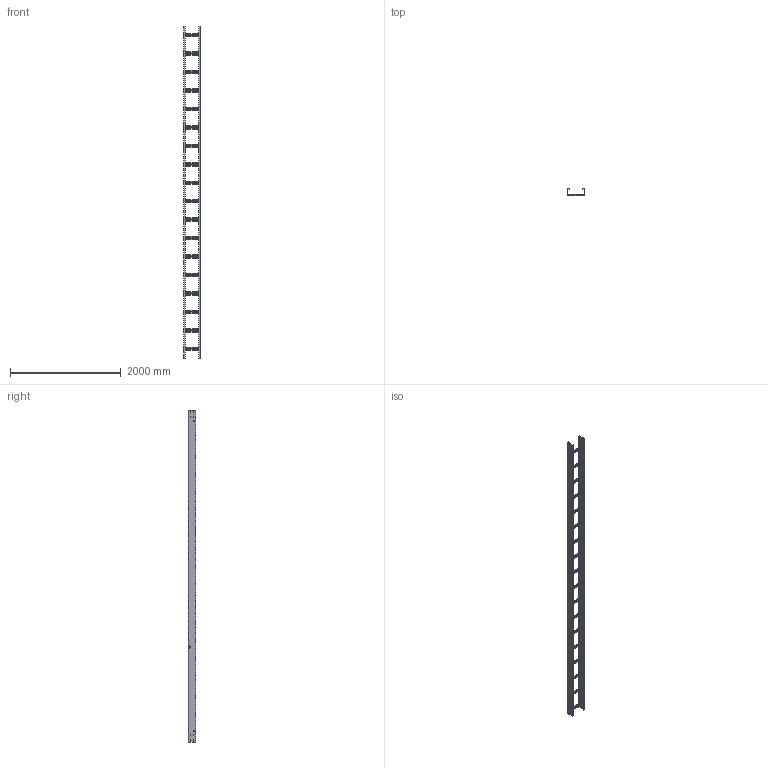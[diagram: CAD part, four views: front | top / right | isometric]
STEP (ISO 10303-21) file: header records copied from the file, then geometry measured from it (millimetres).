
FILE_DESCRIPTION (( 'STEP AP203' ), '1' );
FILE_NAME ('N3 LR 300 6m.STEP', '2024-08-29T04:04:19', ( '' ), ( '' ), 'SwSTEP 2.0', 'SolidWorks 2023', '' );
FILE_SCHEMA (( 'CONFIG_CONTROL_DESIGN' ));
Length unit declared in the file: millimetre
Products named in the file (3): Ladder Rails_Nema 3Rev - 6m; Ladder Rung_Ladder Rung -  300mm; N3 LR 300 6m
Assembly tree (20 placements, depth 2):
  N3 LR 300 6m
    Ladder Rails_Nema 3Rev - 6m  x2
    Ladder Rung_Ladder Rung -  300mm  x18
Bounding box: 303.2 x 131 x 6000 mm (x, y, z)
Volume: 4214813.8 mm3; surface area: 5351454.2 mm2
Topology: 20 solids, 20 shells, 2020 faces, 5250 edges, 3292 vertices
Faces by surface type: plane 1738, cylinder 196, bspline 86
Entity records: 12068 total; most frequent: CARTESIAN_POINT 4187, ORIENTED_EDGE 1538, DIRECTION 1291, EDGE_CURVE 769, LINE 615, VECTOR 615, VERTEX_POINT 494, EDGE_LOOP 343
